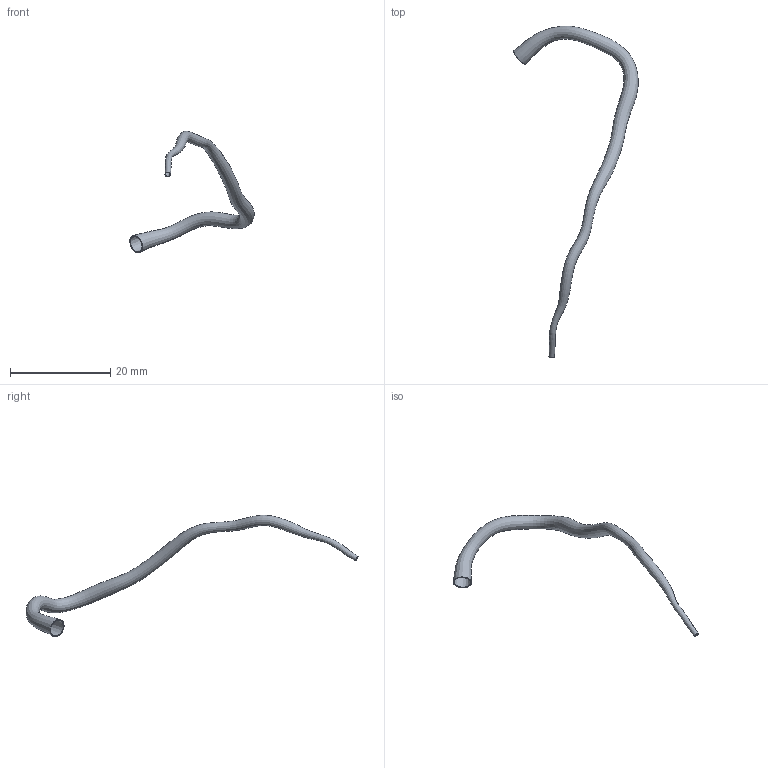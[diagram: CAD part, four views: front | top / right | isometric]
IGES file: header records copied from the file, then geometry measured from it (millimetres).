
Global section: file name: C:\Documents and Settings\Administrator\Desktop\FDA-Pig\Domestic RCA\Pig_000011\rca.seg.ed.igs; native system: Rhinoceros ( May 19 2006 ); preprocessor: Trout Lake IGES 012 May 19 2006; date: 111205.185650; units: centimetre
Bounding box: 24.87 x 66.33 x 24.28 mm (x, y, z)
Surface area: 1332.4 mm2 (no closed solid volume)
Topology: 0 solids, 0 shells, 4 faces, 13 edges, 10 vertices
Faces by surface type: bspline 4
